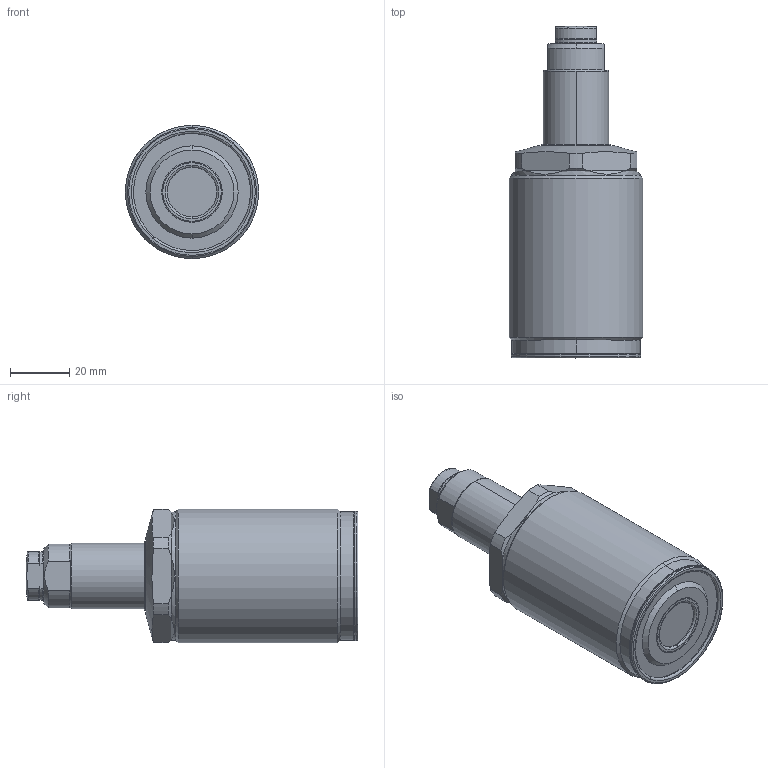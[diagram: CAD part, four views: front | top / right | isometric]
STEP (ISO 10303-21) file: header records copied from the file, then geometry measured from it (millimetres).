
FILE_DESCRIPTION(/* description */ (''),/* implementation_level */ '2;1');
FILE_NAME(/* name */ 'GSS06-Q.stp',/* time_stamp */ '2025-01-10T09:17:36+08:00',/* author */ (''),/* organization */ (''),/* preprocessor_version */ 'ST-DEVELOPER v16.7',/* originating_system */ 'SIEMENS PLM Software NX 12.0',/* authorisation */ '');
FILE_SCHEMA (('AUTOMOTIVE_DESIGN { 1 0 10303 214 3 1 1 1 }'));
Length unit declared in the file: millimetre
Products named in the file (7): AS0122625; TNC0403_ContactBolt_M122819; GSS06-005; GSS06-Q-04; GSS06-Q-01; GSS06-Q-03; GSS06-Q_stp
Assembly tree (6 placements, depth 3):
  GSS06-Q_stp
    GSS06-Q-01
    GSS06-Q-03
      TNC0403_ContactBolt_M122819
      AS0122625
    GSS06-Q-04
    GSS06-005
Bounding box: 45 x 111.9 x 45 mm (x, y, z)
Volume: 121018.5 mm3; surface area: 18986.5 mm2
Topology: 5 solids, 5 shells, 141 faces, 312 edges, 188 vertices
Faces by surface type: cylinder 43, torus 34, plane 34, cone 28, sphere 2
Full cylindrical faces by diameter (mm): 43.2 x1, 45 x1
Entity records: 4227 total; most frequent: CARTESIAN_POINT 882, DIRECTION 751, ORIENTED_EDGE 616, AXIS2_PLACEMENT_3D 335, EDGE_CURVE 308, VERTEX_POINT 188, CIRCLE 181, EDGE_LOOP 158
